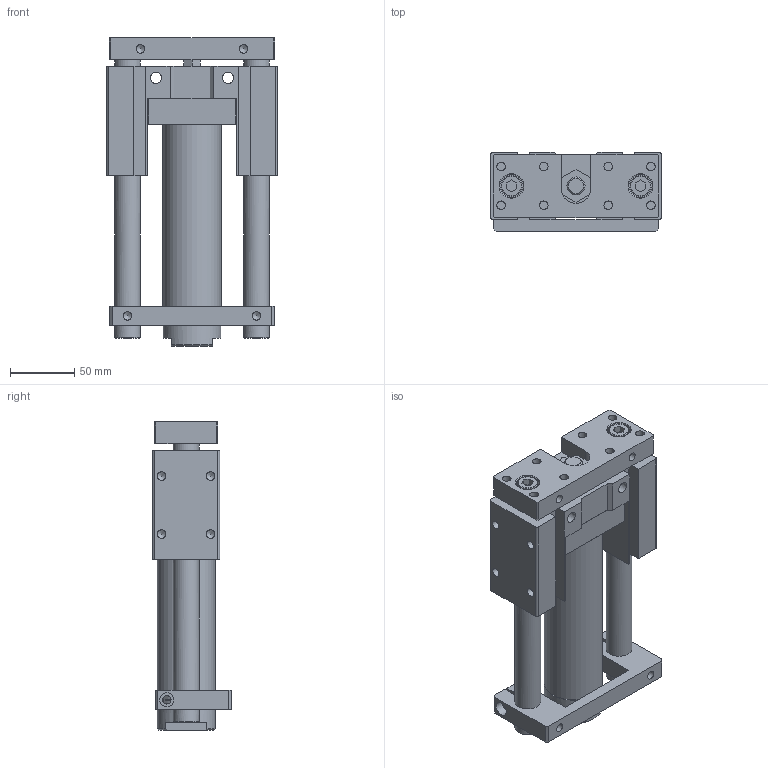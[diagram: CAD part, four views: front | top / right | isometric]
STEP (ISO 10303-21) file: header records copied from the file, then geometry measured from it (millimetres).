
FILE_DESCRIPTION((''),'2;1');
FILE_NAME('I:\3D電子目錄\氣缸\TMB(U)\TMB(U)\TMB(U)40\TMB(U)40x100.stp','2007-10-05T11:42:49',('Administrator'),(''),'Autodesk Inventor 11','Autodesk Inventor 11','');
FILE_SCHEMA(('AUTOMOTIVE_DESIGN { 1 0 10303 214 1 1 1 1 }'));
Length unit declared in the file: millimetre
Products named in the file (1): TMB(U)40
Bounding box: 132 x 61 x 239 mm (x, y, z)
Volume: 875022.2 mm3; surface area: 138109.8 mm2
Topology: 1 solids, 1 shells, 201 faces, 524 edges, 344 vertices
Faces by surface type: plane 118, bspline 41, cylinder 23, cone 17, torus 2
Full cylindrical faces by diameter (mm): 6.5 x2, 6.647 x6, 11 x1, 14 x1, 16 x2, 18 x2, 20 x2, 45 x2
Entity records: 6100 total; most frequent: CARTESIAN_POINT 1571, DIRECTION 870, ORIENTED_EDGE 858, EDGE_CURVE 429, EDGE_LOOP 324, VERTEX_POINT 319, VECTOR 302, LINE 302
